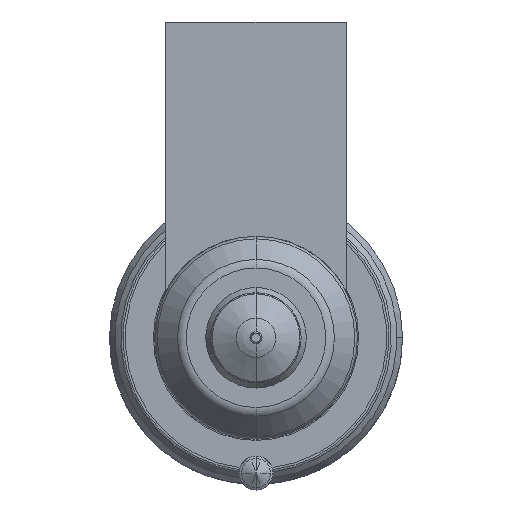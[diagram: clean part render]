
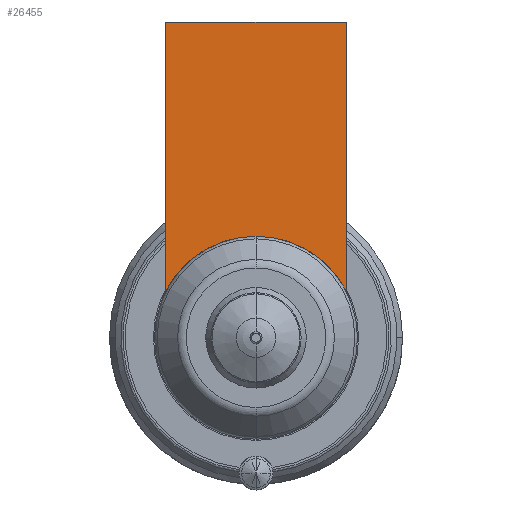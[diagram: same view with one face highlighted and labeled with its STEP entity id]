
A CAD part, front view. The second image highlights one B-rep face of the part: STEP entity #26455.
In plain terms, the highlighted planar face has unit normal (0, -1, 0).
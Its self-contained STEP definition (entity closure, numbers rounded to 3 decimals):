
#25572=DIRECTION('',(1.,0.,0.));
#25573=VECTOR('',#25572,16.);
#25574=CARTESIAN_POINT('',(-8.,-54.,28.));
#25575=LINE('',#25574,#25573);
#25580=CARTESIAN_POINT('',(0.,-54.,0.));
#25581=DIRECTION('',(0.,-1.,0.));
#25582=DIRECTION('',(0.889,0.,0.458));
#25583=AXIS2_PLACEMENT_3D('',#25580,#25581,#25582);
#25588=CARTESIAN_POINT('',(0.,-54.,0.));
#25589=DIRECTION('',(0.,-1.,0.));
#25590=DIRECTION('',(0.,0.,1.));
#25591=AXIS2_PLACEMENT_3D('',#25588,#25589,#25590);
#25617=DIRECTION('',(0.,0.,-1.));
#25618=VECTOR('',#25617,23.877);
#25619=CARTESIAN_POINT('',(-8.,-54.,28.));
#25620=LINE('',#25619,#25618);
#26299=DIRECTION('',(0.,0.,-1.));
#26300=VECTOR('',#26299,23.877);
#26301=CARTESIAN_POINT('',(8.,-54.,28.));
#26302=LINE('',#26301,#26300);
#26352=CARTESIAN_POINT('',(-8.,-54.,28.));
#26353=VERTEX_POINT('',#26352);
#26358=CARTESIAN_POINT('',(8.,-54.,28.));
#26359=VERTEX_POINT('',#26358);
#26362=CARTESIAN_POINT('',(-8.,-54.,4.123));
#26363=VERTEX_POINT('',#26362);
#26366=CARTESIAN_POINT('',(8.,-54.,4.123));
#26367=VERTEX_POINT('',#26366);
#26436=CARTESIAN_POINT('',(0.,-54.,9.));
#26437=VERTEX_POINT('',#26436);
#26438=CARTESIAN_POINT('',(0.,-54.,9.));
#26439=DIRECTION('',(0.,1.,0.));
#26440=DIRECTION('',(0.,0.,-1.));
#26441=AXIS2_PLACEMENT_3D('',#26438,#26439,#26440);
#26442=PLANE('',#26441);
#26444=ORIENTED_EDGE('',*,*,#26443,.F.);
#26446=ORIENTED_EDGE('',*,*,#26445,.T.);
#26448=ORIENTED_EDGE('',*,*,#26447,.T.);
#26450=ORIENTED_EDGE('',*,*,#26449,.T.);
#26452=ORIENTED_EDGE('',*,*,#26451,.T.);
#26453=EDGE_LOOP('',(#26444,#26446,#26448,#26450,#26452));
#26454=FACE_OUTER_BOUND('',#26453,.F.);
#26455=ADVANCED_FACE('',(#26454),#26442,.F.);
#25584=CIRCLE('',#25583,9.);
#25592=CIRCLE('',#25591,9.);
#26443=EDGE_CURVE('',#26353,#26363,#25620,.T.);
#26445=EDGE_CURVE('',#26353,#26359,#25575,.T.);
#26447=EDGE_CURVE('',#26359,#26367,#26302,.T.);
#26449=EDGE_CURVE('',#26367,#26437,#25584,.T.);
#26451=EDGE_CURVE('',#26437,#26363,#25592,.T.);
